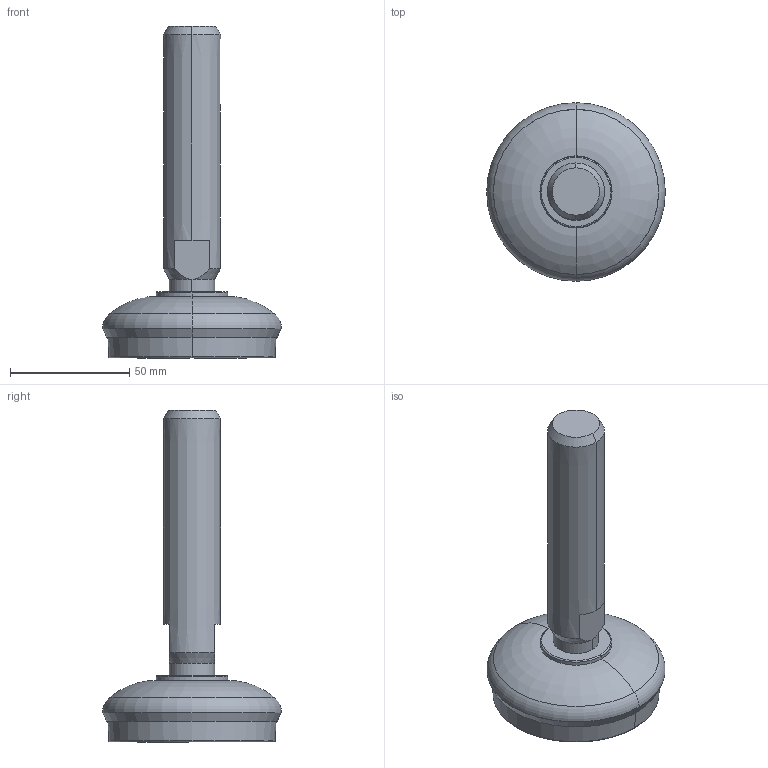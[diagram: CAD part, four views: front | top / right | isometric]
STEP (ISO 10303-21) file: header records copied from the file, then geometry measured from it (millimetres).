
FILE_DESCRIPTION (( 'STEP AP214' ), '1' );
FILE_NAME ('8567828.STEP', '2024-01-24T12:11:46', ( '' ), ( '' ), 'SwSTEP 2.0', 'SolidWorks 2022', '' );
FILE_SCHEMA (( 'AUTOMOTIVE_DESIGN' ));
Length unit declared in the file: millimetre
Products named in the file (1): 8567828
Bounding box: 74.99 x 74.99 x 139.37 mm (x, y, z)
Volume: 142255.4 mm3; surface area: 37103 mm2
Topology: 4 solids, 4 shells, 120 faces, 242 edges, 144 vertices
Faces by surface type: cone 38, torus 34, plane 26, cylinder 22
Entity records: 4591 total; most frequent: DIRECTION 652, CARTESIAN_POINT 555, ORIENTED_EDGE 484, AXIS2_PLACEMENT_3D 293, EDGE_CURVE 242, CIRCLE 172, VERTEX_POINT 144, EDGE_LOOP 138
